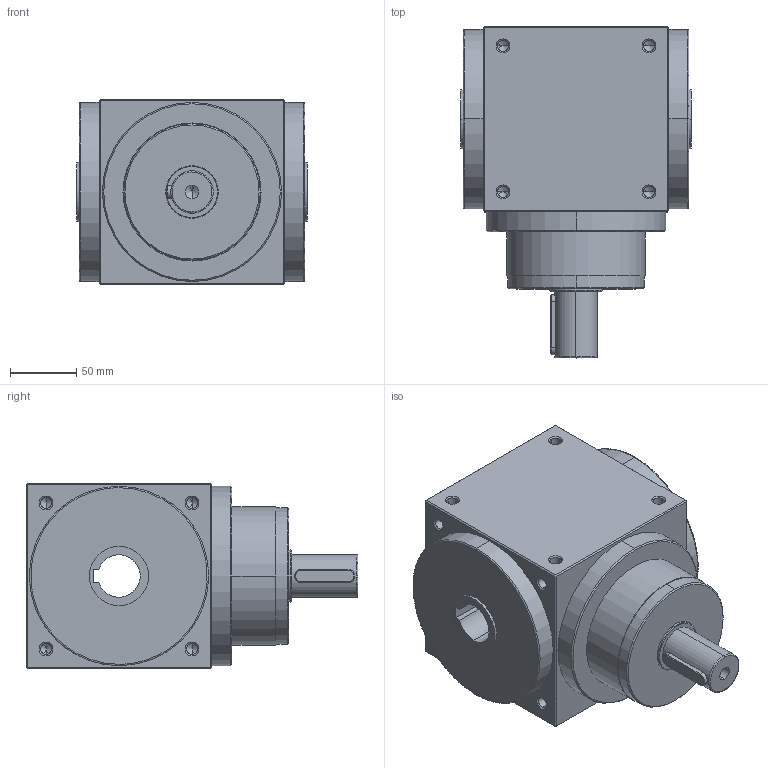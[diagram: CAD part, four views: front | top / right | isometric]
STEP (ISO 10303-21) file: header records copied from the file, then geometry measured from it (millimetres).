
FILE_DESCRIPTION (( 'STEP AP214' ), '1' );
FILE_NAME ('AT140-C-L1.STEP', '2020-11-12T02:57:40', ( '微软用户' ), ( '微软中国' ), 'SwSTEP 2.0', 'SolidWorks 2014', '' );
FILE_SCHEMA (( 'AUTOMOTIVE_DESIGN' ));
Length unit declared in the file: millimetre
Products named in the file (2): AT140-C-L1
Bounding box: 174 x 250 x 140 mm (x, y, z)
Volume: 3628196.2 mm3; surface area: 182544.5 mm2
Topology: 1 solids, 1 shells, 245 faces, 637 edges, 359 vertices
Faces by surface type: cylinder 106, cone 90, plane 43, bspline 6
Entity records: 7298 total; most frequent: CARTESIAN_POINT 1746, ORIENTED_EDGE 1190, DIRECTION 1147, EDGE_CURVE 595, AXIS2_PLACEMENT_3D 442, VERTEX_POINT 359, EDGE_LOOP 278, VECTOR 263
